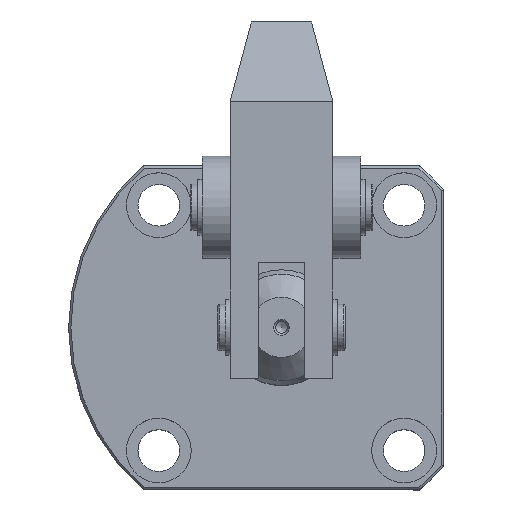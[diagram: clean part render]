
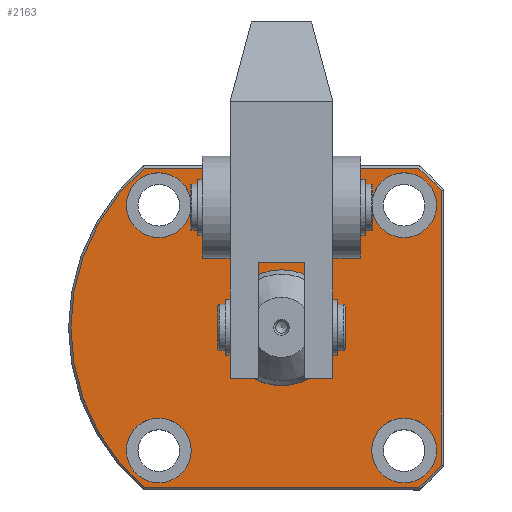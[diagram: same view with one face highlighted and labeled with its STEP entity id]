
A CAD part, top view. The second image highlights one B-rep face of the part: STEP entity #2163.
In plain terms, the highlighted planar face has unit normal (0, 0, 1).
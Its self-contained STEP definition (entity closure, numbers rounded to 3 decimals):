
#130=CIRCLE('',#2351,12.5);
#170=CIRCLE('',#2431,45.5);
#171=CIRCLE('',#2434,45.5);
#172=CIRCLE('',#2437,45.5);
#173=CIRCLE('',#2440,7.);
#174=CIRCLE('',#2442,7.);
#175=CIRCLE('',#2444,7.);
#176=CIRCLE('',#2446,7.);
#500=ORIENTED_EDGE('',*,*,#850,.F.);
#501=ORIENTED_EDGE('',*,*,#833,.T.);
#502=ORIENTED_EDGE('',*,*,#854,.T.);
#503=ORIENTED_EDGE('',*,*,#924,.T.);
#504=ORIENTED_EDGE('',*,*,#922,.T.);
#505=ORIENTED_EDGE('',*,*,#921,.T.);
#506=ORIENTED_EDGE('',*,*,#919,.T.);
#507=ORIENTED_EDGE('',*,*,#929,.T.);
#508=ORIENTED_EDGE('',*,*,#928,.T.);
#509=ORIENTED_EDGE('',*,*,#925,.T.);
#510=ORIENTED_EDGE('',*,*,#856,.T.);
#511=ORIENTED_EDGE('',*,*,#933,.F.);
#512=ORIENTED_EDGE('',*,*,#932,.F.);
#513=ORIENTED_EDGE('',*,*,#931,.F.);
#514=ORIENTED_EDGE('',*,*,#930,.F.);
#833=EDGE_CURVE('',#1094,#1093,#1291,.T.);
#850=EDGE_CURVE('',#1094,#1096,#1306,.T.);
#854=EDGE_CURVE('',#1093,#1098,#1310,.T.);
#856=EDGE_CURVE('',#1109,#1109,#130,.T.);
#919=EDGE_CURVE('',#1158,#1159,#170,.T.);
#921=EDGE_CURVE('',#1160,#1158,#1326,.T.);
#922=EDGE_CURVE('',#1161,#1160,#171,.T.);
#924=EDGE_CURVE('',#1098,#1161,#1327,.T.);
#925=EDGE_CURVE('',#1162,#1096,#1328,.T.);
#928=EDGE_CURVE('',#1163,#1162,#172,.T.);
#929=EDGE_CURVE('',#1159,#1163,#1329,.T.);
#930=EDGE_CURVE('',#1164,#1164,#173,.T.);
#931=EDGE_CURVE('',#1165,#1165,#174,.T.);
#932=EDGE_CURVE('',#1166,#1166,#175,.T.);
#933=EDGE_CURVE('',#1167,#1167,#176,.T.);
#1093=VERTEX_POINT('',#3351);
#1094=VERTEX_POINT('',#3353);
#1096=VERTEX_POINT('',#3359);
#1098=VERTEX_POINT('',#3362);
#1109=VERTEX_POINT('',#3400);
#1158=VERTEX_POINT('',#3571);
#1159=VERTEX_POINT('',#3576);
#1160=VERTEX_POINT('',#3583);
#1161=VERTEX_POINT('',#3587);
#1162=VERTEX_POINT('',#3595);
#1163=VERTEX_POINT('',#3605);
#1164=VERTEX_POINT('',#3611);
#1165=VERTEX_POINT('',#3614);
#1166=VERTEX_POINT('',#3617);
#1167=VERTEX_POINT('',#3620);
#1291=LINE('',#3352,#1404);
#1306=LINE('',#3387,#1419);
#1310=LINE('',#3394,#1423);
#1326=LINE('',#3584,#1439);
#1327=LINE('',#3593,#1440);
#1328=LINE('',#3594,#1441);
#1329=LINE('',#3608,#1442);
#1404=VECTOR('',#2641,1000.);
#1419=VECTOR('',#2670,1000.);
#1423=VECTOR('',#2678,1000.);
#1439=VECTOR('',#2864,1000.);
#1440=VECTOR('',#2871,1000.);
#1441=VECTOR('',#2872,1000.);
#1442=VECTOR('',#2879,1000.);
#1613=EDGE_LOOP('',(#500,#501,#502,#503,#504,#505,#506,#507,#508,#509));
#1614=EDGE_LOOP('',(#510));
#1615=EDGE_LOOP('',(#511));
#1616=EDGE_LOOP('',(#512));
#1617=EDGE_LOOP('',(#513));
#1618=EDGE_LOOP('',(#514));
#1868=FACE_BOUND('',#1613,.T.);
#1869=FACE_BOUND('',#1614,.T.);
#1870=FACE_BOUND('',#1615,.T.);
#1871=FACE_BOUND('',#1616,.T.);
#1872=FACE_BOUND('',#1617,.T.);
#1873=FACE_BOUND('',#1618,.T.);
#2057=PLANE('',#2447);
#2163=ADVANCED_FACE('',(#1868,#1869,#1870,#1871,#1872,#1873),#2057,.T.);
#2351=AXIS2_PLACEMENT_3D('',#3399,#2685,#2686);
#2431=AXIS2_PLACEMENT_3D('',#3577,#2860,#2861);
#2434=AXIS2_PLACEMENT_3D('',#3586,#2867,#2868);
#2437=AXIS2_PLACEMENT_3D('',#3606,#2875,#2876);
#2440=AXIS2_PLACEMENT_3D('',#3610,#2882,#2883);
#2442=AXIS2_PLACEMENT_3D('',#3613,#2886,#2887);
#2444=AXIS2_PLACEMENT_3D('',#3616,#2890,#2891);
#2446=AXIS2_PLACEMENT_3D('',#3619,#2894,#2895);
#2447=AXIS2_PLACEMENT_3D('',#3621,#2896,#2897);
#2641=DIRECTION('',(-1.,0.,0.));
#2670=DIRECTION('',(0.,1.,0.));
#2678=DIRECTION('',(0.,1.,0.));
#2685=DIRECTION('',(0.,0.,-1.));
#2686=DIRECTION('',(0.,-1.,0.));
#2860=DIRECTION('',(0.,0.,1.));
#2861=DIRECTION('',(0.,-1.,0.));
#2864=DIRECTION('',(1.,0.,0.));
#2867=DIRECTION('',(0.,0.,1.));
#2868=DIRECTION('',(0.,-1.,0.));
#2871=DIRECTION('',(-1.,0.,0.));
#2872=DIRECTION('',(-1.,0.,0.));
#2875=DIRECTION('',(0.,0.,1.));
#2876=DIRECTION('',(0.,-1.,0.));
#2879=DIRECTION('',(0.,1.,0.));
#2882=DIRECTION('',(0.,0.,1.));
#2883=DIRECTION('',(1.,0.,0.));
#2886=DIRECTION('',(0.,0.,1.));
#2887=DIRECTION('',(1.,0.,0.));
#2890=DIRECTION('',(0.,0.,1.));
#2891=DIRECTION('',(1.,0.,0.));
#2894=DIRECTION('',(0.,0.,1.));
#2895=DIRECTION('',(1.,0.,0.));
#2896=DIRECTION('',(0.,0.,1.));
#2897=DIRECTION('',(0.,-1.,0.));
#3351=CARTESIAN_POINT('',(-21.85,52.5,17.9));
#3352=CARTESIAN_POINT('',(-10.75,52.5,17.9));
#3353=CARTESIAN_POINT('',(0.35,52.5,17.9));
#3359=CARTESIAN_POINT('',(0.35,71.,17.9));
#3362=CARTESIAN_POINT('',(-21.85,71.,17.9));
#3387=CARTESIAN_POINT('',(0.35,52.5,17.9));
#3394=CARTESIAN_POINT('',(-21.85,52.5,17.9));
#3399=CARTESIAN_POINT('',(-10.75,36.5,17.9));
#3400=CARTESIAN_POINT('',(-10.75,24.,17.9));
#3571=CARTESIAN_POINT('',(18.915,2.,17.9));
#3576=CARTESIAN_POINT('',(23.75,6.835,17.9));
#3577=CARTESIAN_POINT('',(-10.75,36.5,17.9));
#3583=CARTESIAN_POINT('',(-40.415,2.,17.9));
#3584=CARTESIAN_POINT('',(-10.75,2.,17.9));
#3586=CARTESIAN_POINT('',(-10.75,36.5,17.9));
#3587=CARTESIAN_POINT('',(-40.415,71.,17.9));
#3593=CARTESIAN_POINT('',(-10.75,71.,17.9));
#3594=CARTESIAN_POINT('',(-10.75,71.,17.9));
#3595=CARTESIAN_POINT('',(18.915,71.,17.9));
#3605=CARTESIAN_POINT('',(23.75,66.165,17.9));
#3606=CARTESIAN_POINT('',(-10.75,36.5,17.9));
#3608=CARTESIAN_POINT('',(23.75,36.5,17.9));
#3610=CARTESIAN_POINT('',(15.75,63.,17.9));
#3611=CARTESIAN_POINT('',(22.75,63.,17.9));
#3613=CARTESIAN_POINT('',(-37.25,63.,17.9));
#3614=CARTESIAN_POINT('',(-30.25,63.,17.9));
#3616=CARTESIAN_POINT('',(-37.25,10.,17.9));
#3617=CARTESIAN_POINT('',(-30.25,10.,17.9));
#3619=CARTESIAN_POINT('',(15.75,10.,17.9));
#3620=CARTESIAN_POINT('',(22.75,10.,17.9));
#3621=CARTESIAN_POINT('',(-10.75,36.5,17.9));
